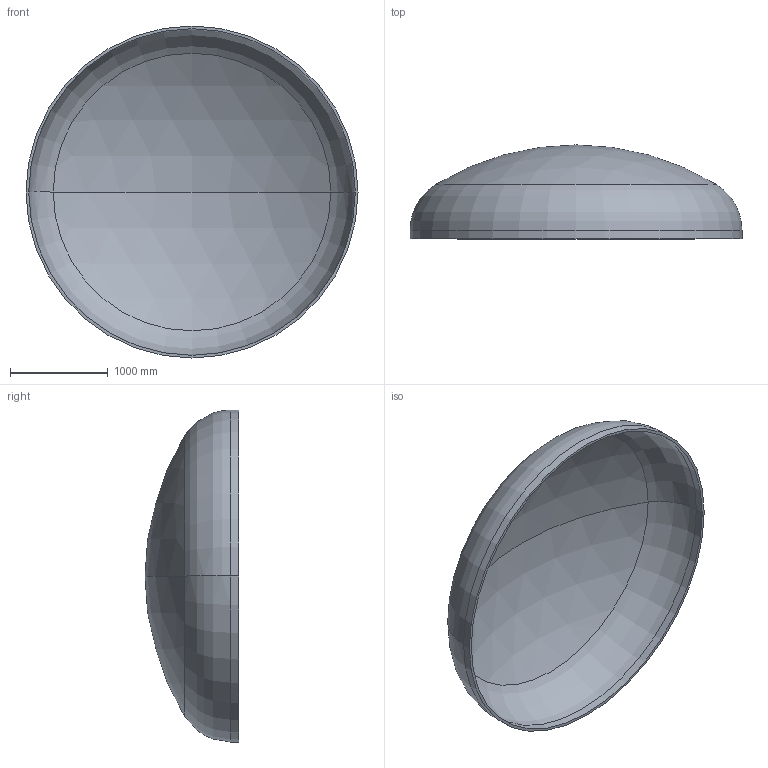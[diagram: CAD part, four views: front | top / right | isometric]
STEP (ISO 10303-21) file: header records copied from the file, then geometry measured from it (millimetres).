
FILE_DESCRIPTION (( 'STEP AP203' ), '1' );
FILE_NAME ('DIN 28013 Korbbogenform_-_Boden DIN 28013 - 3400 x 85 - I - s=28.step', '2016-07-01T19:21:22', ( '' ), ( '' ), 'SwSTEP 2.0', 'SolidWorks 2013', '' );
FILE_SCHEMA (( 'CONFIG_CONTROL_DESIGN' ));
Length unit declared in the file: millimetre
Products named in the file (1): DIN 28013 Korbbogenform_-_Boden DIN 28013 - 3400 x 85 - I - s=28
Bounding box: 3400 x 961.53 x 3400 mm (x, y, z)
Volume: 373670698.1 mm3; surface area: 26989012.7 mm2
Topology: 1 solids, 1 shells, 13 faces, 24 edges, 14 vertices
Faces by surface type: torus 4, cylinder 4, sphere 4, plane 1
Entity records: 407 total; most frequent: DIRECTION 72, CARTESIAN_POINT 52, ORIENTED_EDGE 48, AXIS2_PLACEMENT_3D 34, EDGE_CURVE 24, CIRCLE 20, VERTEX_POINT 14, EDGE_LOOP 14
